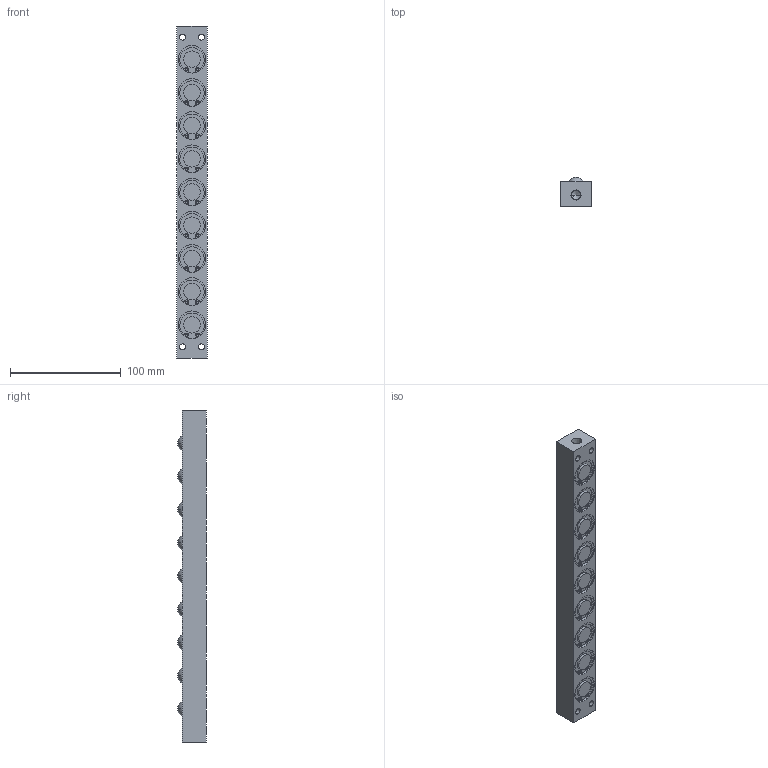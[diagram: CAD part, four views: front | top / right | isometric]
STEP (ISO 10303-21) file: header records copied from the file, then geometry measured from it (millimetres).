
FILE_DESCRIPTION (( 'STEP AP203' ), '1' );
FILE_NAME ('PVL17S-9.STEP', '2015-12-24T06:35:14', ( '' ), ( '' ), 'SwSTEP 2.0', 'SolidWorks 2013', '' );
FILE_SCHEMA (( 'CONFIG_CONTROL_DESIGN' ));
Length unit declared in the file: millimetre
Products named in the file (1): PVL17S-9
Bounding box: 28 x 26 x 300 mm (x, y, z)
Volume: 179002.9 mm3; surface area: 42389.4 mm2
Topology: 1 solids, 1 shells, 312 faces, 733 edges, 490 vertices
Faces by surface type: cylinder 198, plane 92, sphere 18, cone 4
Entity records: 9286 total; most frequent: DIRECTION 1811, CARTESIAN_POINT 1534, ORIENTED_EDGE 1462, AXIS2_PLACEMENT_3D 767, EDGE_CURVE 731, VERTEX_POINT 490, CIRCLE 454, EDGE_LOOP 389
